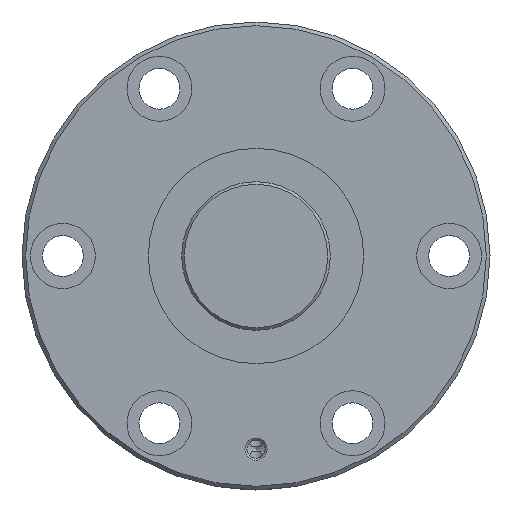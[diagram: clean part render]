
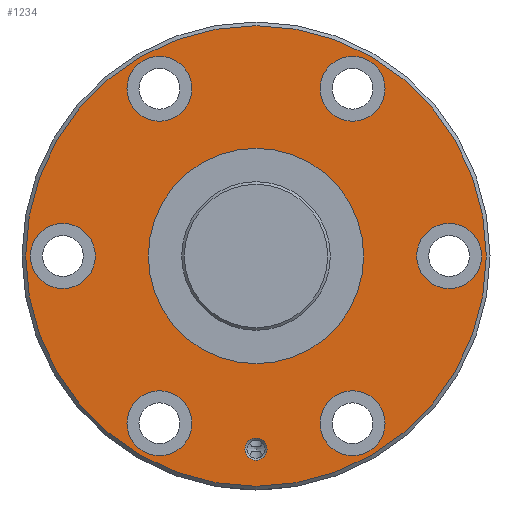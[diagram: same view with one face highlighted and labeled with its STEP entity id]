
A CAD part, left-side view. The second image highlights one B-rep face of the part: STEP entity #1234.
In plain terms, the highlighted planar face has unit normal (-1, 0, 0).
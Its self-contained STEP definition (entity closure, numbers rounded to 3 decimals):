
#221=ORIENTED_EDGE('',*,*,#522,.T.);
#222=ORIENTED_EDGE('',*,*,#523,.T.);
#223=ORIENTED_EDGE('',*,*,#524,.T.);
#224=ORIENTED_EDGE('',*,*,#525,.T.);
#225=ORIENTED_EDGE('',*,*,#526,.T.);
#226=ORIENTED_EDGE('',*,*,#527,.T.);
#227=ORIENTED_EDGE('',*,*,#528,.T.);
#228=ORIENTED_EDGE('',*,*,#529,.T.);
#229=ORIENTED_EDGE('',*,*,#521,.F.);
#521=EDGE_CURVE('',#675,#675,#768,.T.);
#522=EDGE_CURVE('',#676,#676,#769,.T.);
#523=EDGE_CURVE('',#677,#677,#770,.F.);
#524=EDGE_CURVE('',#678,#678,#771,.T.);
#525=EDGE_CURVE('',#679,#679,#772,.T.);
#526=EDGE_CURVE('',#680,#680,#773,.T.);
#527=EDGE_CURVE('',#681,#681,#774,.T.);
#528=EDGE_CURVE('',#682,#682,#775,.T.);
#529=EDGE_CURVE('',#683,#683,#776,.T.);
#675=VERTEX_POINT('',#2167);
#676=VERTEX_POINT('',#2170);
#677=VERTEX_POINT('',#2172);
#678=VERTEX_POINT('',#2174);
#679=VERTEX_POINT('',#2176);
#680=VERTEX_POINT('',#2178);
#681=VERTEX_POINT('',#2180);
#682=VERTEX_POINT('',#2182);
#683=VERTEX_POINT('',#2184);
#768=CIRCLE('',#1360,62.);
#769=CIRCLE('',#1362,29.);
#770=CIRCLE('',#1363,8.75);
#771=CIRCLE('',#1364,3.);
#772=CIRCLE('',#1365,8.75);
#773=CIRCLE('',#1366,8.75);
#774=CIRCLE('',#1367,8.75);
#775=CIRCLE('',#1368,8.75);
#776=CIRCLE('',#1369,8.75);
#884=EDGE_LOOP('',(#221));
#885=EDGE_LOOP('',(#222));
#886=EDGE_LOOP('',(#223));
#887=EDGE_LOOP('',(#224));
#888=EDGE_LOOP('',(#225));
#889=EDGE_LOOP('',(#226));
#890=EDGE_LOOP('',(#227));
#891=EDGE_LOOP('',(#228));
#892=EDGE_LOOP('',(#229));
#1046=FACE_BOUND('',#884,.T.);
#1047=FACE_BOUND('',#885,.T.);
#1048=FACE_BOUND('',#886,.T.);
#1049=FACE_BOUND('',#887,.T.);
#1050=FACE_BOUND('',#888,.T.);
#1051=FACE_BOUND('',#889,.T.);
#1052=FACE_BOUND('',#890,.T.);
#1053=FACE_BOUND('',#891,.T.);
#1054=FACE_BOUND('',#892,.T.);
#1184=PLANE('',#1361);
#1234=ADVANCED_FACE('',(#1046,#1047,#1048,#1049,#1050,#1051,#1052,#1053,
#1054),#1184,.T.);
#1360=AXIS2_PLACEMENT_3D('',#2166,#1594,#1595);
#1361=AXIS2_PLACEMENT_3D('',#2168,#1596,#1597);
#1362=AXIS2_PLACEMENT_3D('',#2169,#1598,#1599);
#1363=AXIS2_PLACEMENT_3D('',#2171,#1600,#1601);
#1364=AXIS2_PLACEMENT_3D('',#2173,#1602,#1603);
#1365=AXIS2_PLACEMENT_3D('',#2175,#1604,#1605);
#1366=AXIS2_PLACEMENT_3D('',#2177,#1606,#1607);
#1367=AXIS2_PLACEMENT_3D('',#2179,#1608,#1609);
#1368=AXIS2_PLACEMENT_3D('',#2181,#1610,#1611);
#1369=AXIS2_PLACEMENT_3D('',#2183,#1612,#1613);
#1594=DIRECTION('',(1.,0.,0.));
#1595=DIRECTION('',(0.,0.,-1.));
#1596=DIRECTION('',(-1.,0.,0.));
#1597=DIRECTION('',(0.,0.,1.));
#1598=DIRECTION('',(1.,0.,0.));
#1599=DIRECTION('',(0.,0.,-1.));
#1600=DIRECTION('',(-1.,0.,0.));
#1601=DIRECTION('',(0.,0.,1.));
#1602=DIRECTION('',(1.,0.,0.));
#1603=DIRECTION('',(0.,1.,0.));
#1604=DIRECTION('',(1.,0.,0.));
#1605=DIRECTION('',(0.,0.,-1.));
#1606=DIRECTION('',(1.,0.,0.));
#1607=DIRECTION('',(0.,0.,-1.));
#1608=DIRECTION('',(1.,0.,0.));
#1609=DIRECTION('',(0.,0.,-1.));
#1610=DIRECTION('',(1.,0.,0.));
#1611=DIRECTION('',(0.,0.,-1.));
#1612=DIRECTION('',(1.,0.,0.));
#1613=DIRECTION('',(0.,0.,-1.));
#2166=CARTESIAN_POINT('',(0.,0.,0.));
#2167=CARTESIAN_POINT('',(0.,0.,-62.));
#2168=CARTESIAN_POINT('',(0.,62.,0.));
#2169=CARTESIAN_POINT('',(0.,0.,0.));
#2170=CARTESIAN_POINT('',(0.,0.,-29.));
#2171=CARTESIAN_POINT('',(0.,52.,0.));
#2172=CARTESIAN_POINT('',(0.,52.,8.75));
#2173=CARTESIAN_POINT('',(0.,0.,-52.));
#2174=CARTESIAN_POINT('',(0.,3.,-52.));
#2175=CARTESIAN_POINT('',(0.,26.,45.033));
#2176=CARTESIAN_POINT('',(0.,26.,36.283));
#2177=CARTESIAN_POINT('',(0.,-26.,-45.033));
#2178=CARTESIAN_POINT('',(0.,-26.,-53.783));
#2179=CARTESIAN_POINT('',(0.,-26.,45.033));
#2180=CARTESIAN_POINT('',(0.,-26.,36.283));
#2181=CARTESIAN_POINT('',(0.,26.,-45.033));
#2182=CARTESIAN_POINT('',(0.,26.,-53.783));
#2183=CARTESIAN_POINT('',(0.,-52.,0.));
#2184=CARTESIAN_POINT('',(0.,-52.,-8.75));
